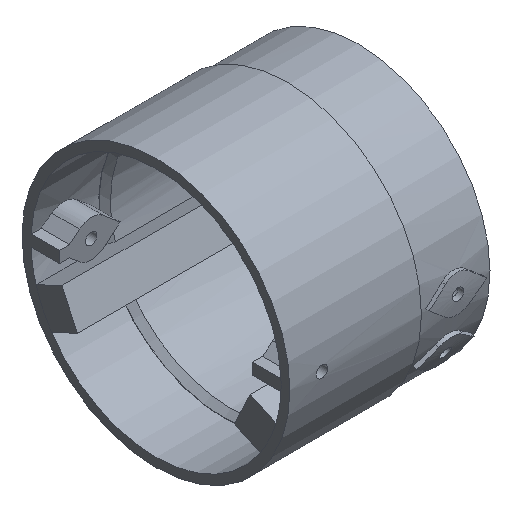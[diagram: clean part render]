
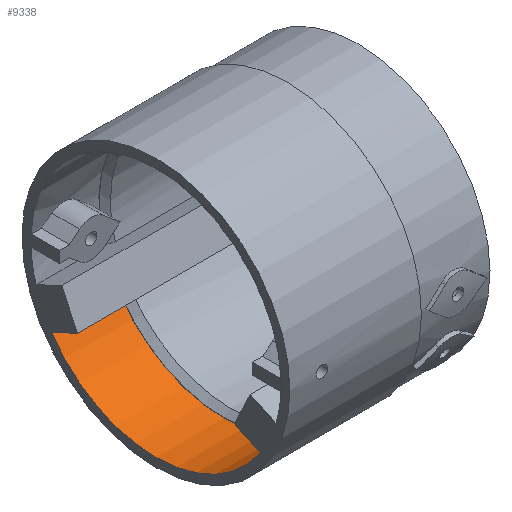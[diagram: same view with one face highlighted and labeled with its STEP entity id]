
A CAD part, isometric view. The second image highlights one B-rep face of the part: STEP entity #9338.
In plain terms, the highlighted cylindrical face has radius 17.6 mm (diameter 35.2 mm), a partial arc.
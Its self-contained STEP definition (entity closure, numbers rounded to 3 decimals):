
#43 = PLANE('',#44);
#44 = AXIS2_PLACEMENT_3D('',#45,#46,#47);
#45 = CARTESIAN_POINT('',(338.5,0.,0.));
#46 = DIRECTION('',(1.,0.,0.));
#47 = DIRECTION('',(-0.,0.,1.));
#1892 = VERTEX_POINT('',#1893);
#1893 = CARTESIAN_POINT('',(338.5,-14.677,
    -9.713));
#1907 = PLANE('',#1908);
#1908 = AXIS2_PLACEMENT_3D('',#1909,#1910,#1911);
#1909 = CARTESIAN_POINT('',(338.5,-11.046,
    -8.019));
#1910 = DIRECTION('',(0.,0.423,-0.906));
#1911 = DIRECTION('',(1.,0.,0.));
#1966 = EDGE_CURVE('',#1892,#1967,#1969,.T.);
#1967 = VERTEX_POINT('',#1968);
#1968 = CARTESIAN_POINT('',(348.1,-14.677,-9.713));
#1969 = SURFACE_CURVE('',#1970,(#1974,#1980),.PCURVE_S1.);
#1970 = LINE('',#1971,#1972);
#1971 = CARTESIAN_POINT('',(337.5,-14.677,-9.713));
#1972 = VECTOR('',#1973,1.);
#1973 = DIRECTION('',(1.,0.,0.));
#1974 = PCURVE('',#1907,#1975);
#1975 = DEFINITIONAL_REPRESENTATION('',(#1976),#1979);
#1976 = B_SPLINE_CURVE_WITH_KNOTS('',1,(#1977,#1978),.UNSPECIFIED.,.F.,
  .F.,(2,2),(1.,10.6),.PIECEWISE_BEZIER_KNOTS.);
#1977 = CARTESIAN_POINT('',(0.,4.007));
#1978 = CARTESIAN_POINT('',(9.6,4.007));
#1979 = ( GEOMETRIC_REPRESENTATION_CONTEXT(2) 
PARAMETRIC_REPRESENTATION_CONTEXT() REPRESENTATION_CONTEXT('2D SPACE',''
  ) );
#1980 = PCURVE('',#1981,#1986);
#1981 = CYLINDRICAL_SURFACE('',#1982,17.6);
#1982 = AXIS2_PLACEMENT_3D('',#1983,#1984,#1985);
#1983 = CARTESIAN_POINT('',(337.5,0.,0.));
#1984 = DIRECTION('',(1.,0.,0.));
#1985 = DIRECTION('',(-0.,0.,1.));
#1986 = DEFINITIONAL_REPRESENTATION('',(#1987),#1990);
#1987 = B_SPLINE_CURVE_WITH_KNOTS('',1,(#1988,#1989),.UNSPECIFIED.,.F.,
  .F.,(2,2),(1.,10.6),.PIECEWISE_BEZIER_KNOTS.);
#1988 = CARTESIAN_POINT('',(8.439,1.));
#1989 = CARTESIAN_POINT('',(8.439,10.6));
#1990 = ( GEOMETRIC_REPRESENTATION_CONTEXT(2) 
PARAMETRIC_REPRESENTATION_CONTEXT() REPRESENTATION_CONTEXT('2D SPACE',''
  ) );
#2108 = PLANE('',#2109);
#2109 = AXIS2_PLACEMENT_3D('',#2110,#2111,#2112);
#2110 = CARTESIAN_POINT('',(348.1,0.,0.));
#2111 = DIRECTION('',(1.,0.,0.));
#2112 = DIRECTION('',(-0.,0.,1.));
#2457 = PLANE('',#2458);
#2458 = AXIS2_PLACEMENT_3D('',#2459,#2460,#2461);
#2459 = CARTESIAN_POINT('',(338.5,11.046,-8.019
    ));
#2460 = DIRECTION('',(0.,0.423,0.906));
#2461 = DIRECTION('',(1.,0.,0.));
#2493 = EDGE_CURVE('',#2494,#2496,#2498,.T.);
#2494 = VERTEX_POINT('',#2495);
#2495 = CARTESIAN_POINT('',(338.5,14.677,-9.713
    ));
#2496 = VERTEX_POINT('',#2497);
#2497 = CARTESIAN_POINT('',(348.1,14.677,-9.713));
#2498 = SURFACE_CURVE('',#2499,(#2503,#2509),.PCURVE_S1.);
#2499 = LINE('',#2500,#2501);
#2500 = CARTESIAN_POINT('',(337.5,14.677,-9.713));
#2501 = VECTOR('',#2502,1.);
#2502 = DIRECTION('',(1.,0.,0.));
#2503 = PCURVE('',#2457,#2504);
#2504 = DEFINITIONAL_REPRESENTATION('',(#2505),#2508);
#2505 = B_SPLINE_CURVE_WITH_KNOTS('',1,(#2506,#2507),.UNSPECIFIED.,.F.,
  .F.,(2,2),(1.,10.6),.PIECEWISE_BEZIER_KNOTS.);
#2506 = CARTESIAN_POINT('',(0.,4.007));
#2507 = CARTESIAN_POINT('',(9.6,4.007));
#2508 = ( GEOMETRIC_REPRESENTATION_CONTEXT(2) 
PARAMETRIC_REPRESENTATION_CONTEXT() REPRESENTATION_CONTEXT('2D SPACE',''
  ) );
#2509 = PCURVE('',#1981,#2510);
#2510 = DEFINITIONAL_REPRESENTATION('',(#2511),#2514);
#2511 = B_SPLINE_CURVE_WITH_KNOTS('',1,(#2512,#2513),.UNSPECIFIED.,.F.,
  .F.,(2,2),(1.,10.6),.PIECEWISE_BEZIER_KNOTS.);
#2512 = CARTESIAN_POINT('',(10.411,1.));
#2513 = CARTESIAN_POINT('',(10.411,10.6));
#2514 = ( GEOMETRIC_REPRESENTATION_CONTEXT(2) 
PARAMETRIC_REPRESENTATION_CONTEXT() REPRESENTATION_CONTEXT('2D SPACE',''
  ) );
#9317 = EDGE_CURVE('',#1967,#2496,#9318,.T.);
#9318 = SURFACE_CURVE('',#9319,(#9324,#9331),.PCURVE_S1.);
#9319 = CIRCLE('',#9320,17.6);
#9320 = AXIS2_PLACEMENT_3D('',#9321,#9322,#9323);
#9321 = CARTESIAN_POINT('',(348.1,0.,0.));
#9322 = DIRECTION('',(1.,-0.,0.));
#9323 = DIRECTION('',(0.,0.959,-0.284));
#9324 = PCURVE('',#2108,#9325);
#9325 = DEFINITIONAL_REPRESENTATION('',(#9326),#9330);
#9326 = CIRCLE('',#9327,17.6);
#9327 = AXIS2_PLACEMENT_2D('',#9328,#9329);
#9328 = CARTESIAN_POINT('',(0.,0.));
#9329 = DIRECTION('',(-0.284,-0.959));
#9330 = ( GEOMETRIC_REPRESENTATION_CONTEXT(2) 
PARAMETRIC_REPRESENTATION_CONTEXT() REPRESENTATION_CONTEXT('2D SPACE',''
  ) );
#9331 = PCURVE('',#1981,#9332);
#9332 = DEFINITIONAL_REPRESENTATION('',(#9333),#9337);
#9333 = LINE('',#9334,#9335);
#9334 = CARTESIAN_POINT('',(4.424,10.6));
#9335 = VECTOR('',#9336,1.);
#9336 = DIRECTION('',(1.,0.));
#9337 = ( GEOMETRIC_REPRESENTATION_CONTEXT(2) 
PARAMETRIC_REPRESENTATION_CONTEXT() REPRESENTATION_CONTEXT('2D SPACE',''
  ) );
#9338 = ADVANCED_FACE('',(#9339),#1981,.F.);
#9339 = FACE_BOUND('',#9340,.F.);
#9340 = EDGE_LOOP('',(#9341,#9342,#9363,#9364));
#9341 = ORIENTED_EDGE('',*,*,#1966,.F.);
#9342 = ORIENTED_EDGE('',*,*,#9343,.T.);
#9343 = EDGE_CURVE('',#1892,#2494,#9344,.T.);
#9344 = SURFACE_CURVE('',#9345,(#9350,#9356),.PCURVE_S1.);
#9345 = CIRCLE('',#9346,17.6);
#9346 = AXIS2_PLACEMENT_3D('',#9347,#9348,#9349);
#9347 = CARTESIAN_POINT('',(338.5,0.,0.));
#9348 = DIRECTION('',(1.,0.,0.));
#9349 = DIRECTION('',(-0.,0.,1.));
#9350 = PCURVE('',#1981,#9351);
#9351 = DEFINITIONAL_REPRESENTATION('',(#9352),#9355);
#9352 = B_SPLINE_CURVE_WITH_KNOTS('',1,(#9353,#9354),.UNSPECIFIED.,.F.,
  .F.,(2,2),(1.616,4.128),.PIECEWISE_BEZIER_KNOTS.);
#9353 = CARTESIAN_POINT('',(7.899,1.));
#9354 = CARTESIAN_POINT('',(10.411,1.));
#9355 = ( GEOMETRIC_REPRESENTATION_CONTEXT(2) 
PARAMETRIC_REPRESENTATION_CONTEXT() REPRESENTATION_CONTEXT('2D SPACE',''
  ) );
#9356 = PCURVE('',#43,#9357);
#9357 = DEFINITIONAL_REPRESENTATION('',(#9358),#9362);
#9358 = CIRCLE('',#9359,17.6);
#9359 = AXIS2_PLACEMENT_2D('',#9360,#9361);
#9360 = CARTESIAN_POINT('',(0.,0.));
#9361 = DIRECTION('',(1.,0.));
#9362 = ( GEOMETRIC_REPRESENTATION_CONTEXT(2) 
PARAMETRIC_REPRESENTATION_CONTEXT() REPRESENTATION_CONTEXT('2D SPACE',''
  ) );
#9363 = ORIENTED_EDGE('',*,*,#2493,.T.);
#9364 = ORIENTED_EDGE('',*,*,#9317,.F.);
